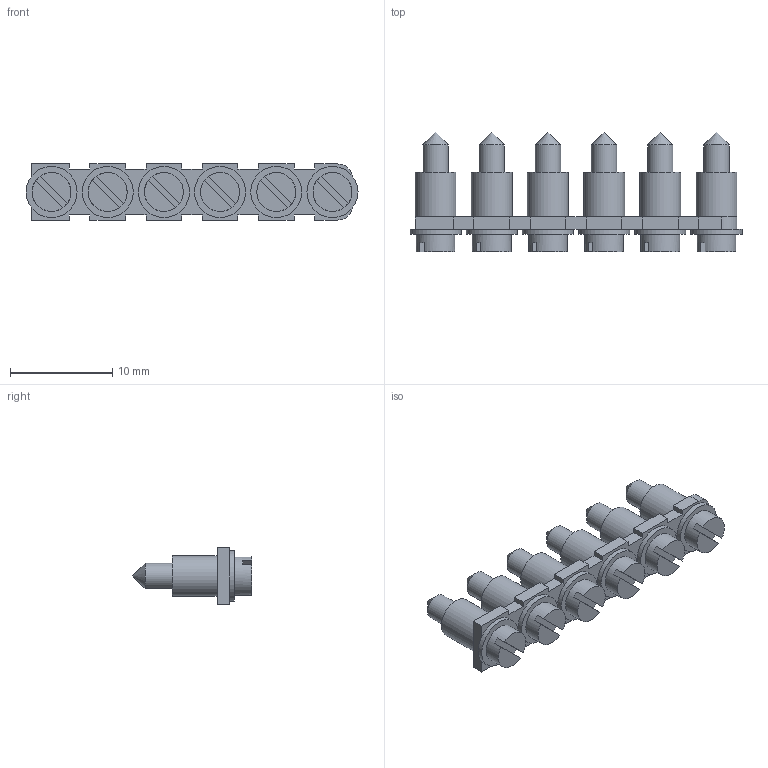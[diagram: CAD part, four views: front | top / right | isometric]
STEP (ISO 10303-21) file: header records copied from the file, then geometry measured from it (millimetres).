
FILE_DESCRIPTION(('STEP AP214'), '1');
FILE_NAME('Ìîñò Ì8-6', '', ('UNSPECIFIED'), ('UNSPECIFIED'), 'ASCON STEP Converter 1.6', 'ASCON Math Kernel', '');
FILE_SCHEMA(('AUTOMOTIVE_DESIGN { 1 0 10303 214 3 1 1}'));
Length unit declared in the file: millimetre
Products named in the file (5): 襠窏.741134.935-04; 襠窏.713161.061; 襠窏.758152.007
Assembly tree (19 placements, depth 2):
  (unnamed)
    襠窏.741134.935-04
    襠窏.713161.061  x6
    襠窏.758152.007  x6
    (unnamed)  x6
Bounding box: 32.5 x 11.7 x 5.5 mm (x, y, z)
Volume: 734.1 mm3; surface area: 1982.7 mm2
Topology: 19 solids, 19 shells, 186 faces, 402 edges, 260 vertices
Faces by surface type: plane 112, cylinder 56, cone 12, torus 6
Full cylindrical faces by diameter (mm): 2.013 x6, 2.18 x6, 2.5 x6, 2.7 x6, 2.72 x6, 2.9 x6, 3.8 x6, 4 x6, 5 x6
Entity records: 3491 total; most frequent: DIRECTION 408, CARTESIAN_POINT 404, ORIENTED_EDGE 358, EDGE_CURVE 179, LINE 142, VECTOR 142, AXIS2_PLACEMENT_3D 133, VERTEX_POINT 129
